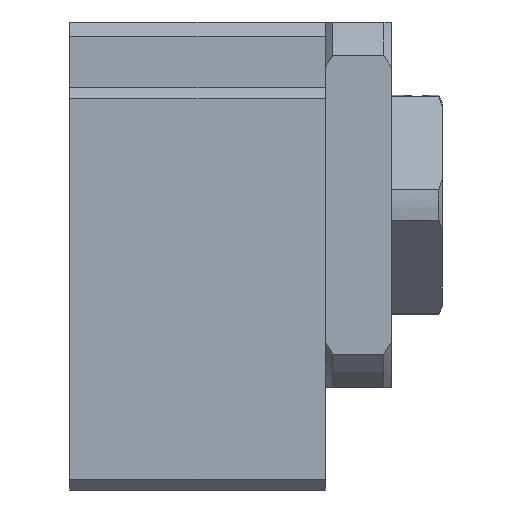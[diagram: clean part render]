
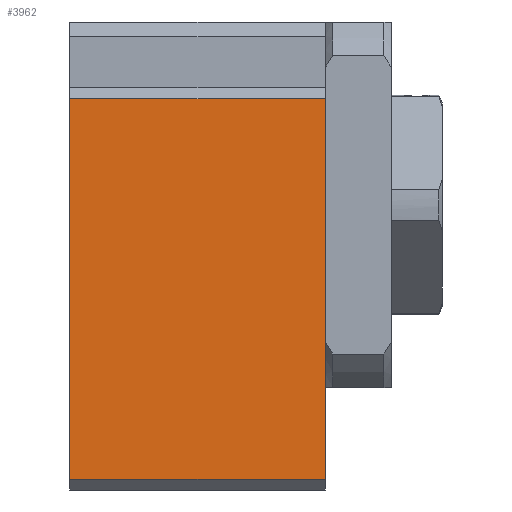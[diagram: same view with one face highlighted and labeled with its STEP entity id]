
A CAD part, left-side view. The second image highlights one B-rep face of the part: STEP entity #3962.
In plain terms, the highlighted free-form (B-spline) face has degree [1, 1] with [2, 2] control points.
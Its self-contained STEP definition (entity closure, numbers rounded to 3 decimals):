
#3634=CARTESIAN_POINT('',(-43.,-37.5,0.));
#3635=VERTEX_POINT('',#3634);
#3641=CARTESIAN_POINT('',(-43.,-37.5,-35.));
#3642=VERTEX_POINT('',#3641);
#3643=CARTESIAN_POINT('',(-43.,-37.5,0.));
#3644=CARTESIAN_POINT('',(-43.,-37.5,-35.));
#3645=B_SPLINE_CURVE_WITH_KNOTS('',1,(#3643,#3644),.POLYLINE_FORM.,.F.,.U.,(2,2),(0.,1.),.UNSPECIFIED.);
#3646=EDGE_CURVE('',#3635,#3642,#3645,.T.);
#3920=CARTESIAN_POINT('',(-43.,14.5,0.));
#3921=VERTEX_POINT('',#3920);
#3928=CARTESIAN_POINT('',(-43.,14.5,-35.));
#3929=VERTEX_POINT('',#3928);
#3935=CARTESIAN_POINT('',(-43.,14.5,-35.));
#3936=CARTESIAN_POINT('',(-43.,14.5,0.));
#3937=B_SPLINE_CURVE_WITH_KNOTS('',1,(#3935,#3936),.POLYLINE_FORM.,.F.,.U.,(2,2),(0.,1.),.UNSPECIFIED.);
#3938=EDGE_CURVE('',#3929,#3921,#3937,.T.);
#3943=CARTESIAN_POINT('',(-43.,-79.523,-129.023));
#3944=CARTESIAN_POINT('',(-43.,108.523,-129.023));
#3945=CARTESIAN_POINT('',(-43.,-79.523,59.023));
#3946=CARTESIAN_POINT('',(-43.,108.523,59.023));
#3947=B_SPLINE_SURFACE_WITH_KNOTS('',1,1,((#3943,#3944),(#3945,#3946)),.PLANE_SURF.,.F.,.F.,.U.,(2,2),(2,2),(0.,1.),(0.,1.),.UNSPECIFIED.);
#3948=CARTESIAN_POINT('',(-43.,-37.5,0.));
#3949=CARTESIAN_POINT('',(-43.,14.5,0.));
#3950=B_SPLINE_CURVE_WITH_KNOTS('',1,(#3948,#3949),.POLYLINE_FORM.,.F.,.U.,(2,2),(0.,1.),.UNSPECIFIED.);
#3951=EDGE_CURVE('',#3635,#3921,#3950,.T.);
#3952=ORIENTED_EDGE('',*,*,#3951,.T.);
#3953=ORIENTED_EDGE('',*,*,#3938,.F.);
#3954=CARTESIAN_POINT('',(-43.,14.5,-35.));
#3955=CARTESIAN_POINT('',(-43.,-37.5,-35.));
#3956=B_SPLINE_CURVE_WITH_KNOTS('',1,(#3954,#3955),.POLYLINE_FORM.,.F.,.U.,(2,2),(0.,1.),.UNSPECIFIED.);
#3957=EDGE_CURVE('',#3929,#3642,#3956,.T.);
#3958=ORIENTED_EDGE('',*,*,#3957,.T.);
#3959=ORIENTED_EDGE('',*,*,#3646,.F.);
#3960=EDGE_LOOP('',(#3952,#3953,#3958,#3959));
#3961=FACE_OUTER_BOUND('',#3960,.T.);
#3962=ADVANCED_FACE('',(#3961),#3947,.T.);
